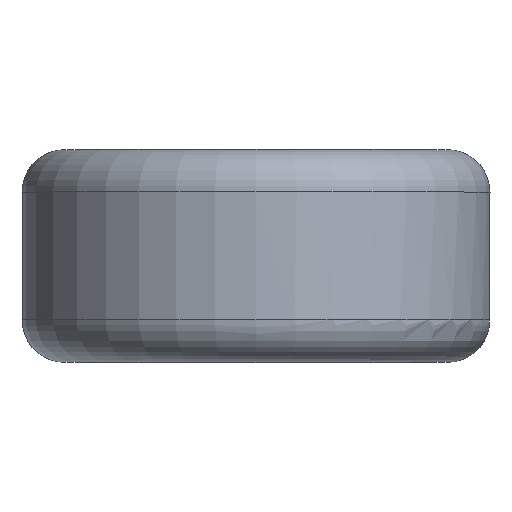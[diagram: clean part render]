
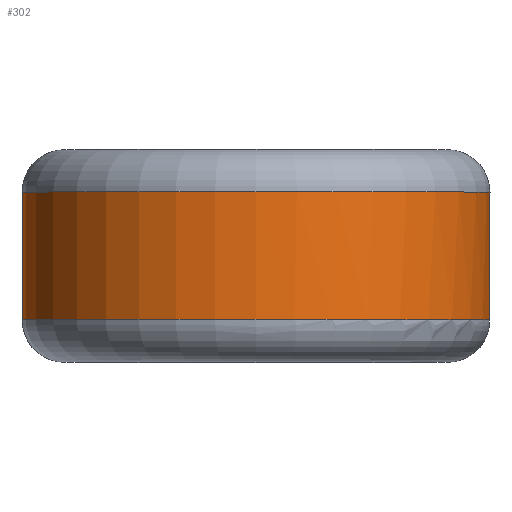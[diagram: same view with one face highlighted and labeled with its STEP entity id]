
A CAD part, top view. The second image highlights one B-rep face of the part: STEP entity #302.
In plain terms, the highlighted cylindrical face has radius 5.5 mm (diameter 11 mm), a full revolution.
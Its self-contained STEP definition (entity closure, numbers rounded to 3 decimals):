
#24=B_SPLINE_CURVE_WITH_KNOTS('',3,(#989,#990,#991,#992,#993,#994,#995,
#996,#997,#998),.UNSPECIFIED.,.F.,.F.,(4,1,1,1,1,1,1,4),(-0.211,
-0.181,-0.151,-0.121,-0.09,
-0.06,-0.03,0.),.UNSPECIFIED.);
#26=B_SPLINE_CURVE_WITH_KNOTS('',3,(#1074,#1075,#1076,#1077,#1078,#1079,
#1080,#1081,#1082,#1083),.UNSPECIFIED.,.F.,.F.,(4,1,1,1,1,1,1,4),(-0.211,
-0.181,-0.151,-0.121,-0.09,
-0.06,-0.03,0.),.UNSPECIFIED.);
#72=FACE_OUTER_BOUND('',#92,.T.);
#92=EDGE_LOOP('',(#241,#242,#243,#244,#245,#246,#247,#248,#249,#250));
#105=LINE('',#1068,#108);
#108=VECTOR('',#407,5.5);
#120=CIRCLE('',#347,5.5);
#121=CIRCLE('',#348,5.5);
#122=CIRCLE('',#349,5.5);
#123=CIRCLE('',#351,5.5);
#124=CIRCLE('',#352,5.5);
#125=CIRCLE('',#353,5.5);
#143=VERTEX_POINT('',#985);
#144=VERTEX_POINT('',#987);
#147=VERTEX_POINT('',#1060);
#148=VERTEX_POINT('',#1063);
#149=VERTEX_POINT('',#1067);
#150=VERTEX_POINT('',#1069);
#151=VERTEX_POINT('',#1071);
#152=VERTEX_POINT('',#1073);
#176=EDGE_CURVE('',#143,#144,#24,.T.);
#181=EDGE_CURVE('',#144,#147,#120,.T.);
#182=EDGE_CURVE('',#148,#143,#121,.T.);
#183=EDGE_CURVE('',#147,#148,#122,.T.);
#184=EDGE_CURVE('',#148,#149,#105,.T.);
#185=EDGE_CURVE('',#149,#150,#123,.T.);
#186=EDGE_CURVE('',#150,#151,#124,.T.);
#187=EDGE_CURVE('',#151,#152,#26,.T.);
#188=EDGE_CURVE('',#152,#149,#125,.T.);
#241=ORIENTED_EDGE('',*,*,#176,.T.);
#242=ORIENTED_EDGE('',*,*,#181,.T.);
#243=ORIENTED_EDGE('',*,*,#183,.T.);
#244=ORIENTED_EDGE('',*,*,#184,.T.);
#245=ORIENTED_EDGE('',*,*,#185,.T.);
#246=ORIENTED_EDGE('',*,*,#186,.T.);
#247=ORIENTED_EDGE('',*,*,#187,.T.);
#248=ORIENTED_EDGE('',*,*,#188,.T.);
#249=ORIENTED_EDGE('',*,*,#184,.F.);
#250=ORIENTED_EDGE('',*,*,#182,.T.);
#292=CYLINDRICAL_SURFACE('',#350,5.5);
#302=ADVANCED_FACE('',(#72),#292,.T.);
#347=AXIS2_PLACEMENT_3D('',#1062,#399,#400);
#348=AXIS2_PLACEMENT_3D('',#1064,#401,#402);
#349=AXIS2_PLACEMENT_3D('',#1065,#403,#404);
#350=AXIS2_PLACEMENT_3D('',#1066,#405,#406);
#351=AXIS2_PLACEMENT_3D('',#1070,#408,#409);
#352=AXIS2_PLACEMENT_3D('',#1072,#410,#411);
#353=AXIS2_PLACEMENT_3D('',#1084,#412,#413);
#399=DIRECTION('center_axis',(0.,-1.,0.));
#400=DIRECTION('ref_axis',(-1.,0.,0.));
#401=DIRECTION('center_axis',(0.,-1.,0.));
#402=DIRECTION('ref_axis',(-1.,0.,0.));
#403=DIRECTION('center_axis',(0.,-1.,0.));
#404=DIRECTION('ref_axis',(-1.,0.,0.));
#405=DIRECTION('center_axis',(0.,-1.,0.));
#406=DIRECTION('ref_axis',(1.,0.,0.));
#407=DIRECTION('',(0.,-1.,0.));
#408=DIRECTION('center_axis',(0.,1.,0.));
#409=DIRECTION('ref_axis',(-1.,0.,0.));
#410=DIRECTION('center_axis',(0.,1.,0.));
#411=DIRECTION('ref_axis',(-1.,0.,0.));
#412=DIRECTION('center_axis',(0.,1.,0.));
#413=DIRECTION('ref_axis',(-1.,0.,0.));
#985=CARTESIAN_POINT('',(-3.363,1.5,-4.352));
#987=CARTESIAN_POINT('',(-2.477,1.5,-4.91));
#989=CARTESIAN_POINT('Ctrl Pts',(-3.363,1.5,-4.352));
#990=CARTESIAN_POINT('Ctrl Pts',(-3.388,1.405,-4.333));
#991=CARTESIAN_POINT('Ctrl Pts',(-3.396,1.196,-4.326));
#992=CARTESIAN_POINT('Ctrl Pts',(-3.28,0.921,-4.417));
#993=CARTESIAN_POINT('Ctrl Pts',(-3.064,0.764,-4.571));
#994=CARTESIAN_POINT('Ctrl Pts',(-2.805,0.765,-4.734));
#995=CARTESIAN_POINT('Ctrl Pts',(-2.573,0.923,-4.863));
#996=CARTESIAN_POINT('Ctrl Pts',(-2.439,1.196,-4.929));
#997=CARTESIAN_POINT('Ctrl Pts',(-2.449,1.405,-4.925));
#998=CARTESIAN_POINT('Ctrl Pts',(-2.477,1.5,-4.91));
#1060=CARTESIAN_POINT('',(0.,1.5,-5.5));
#1062=CARTESIAN_POINT('Origin',(0.,1.5,0.));
#1063=CARTESIAN_POINT('',(-5.5,1.5,0.));
#1064=CARTESIAN_POINT('Origin',(0.,1.5,0.));
#1065=CARTESIAN_POINT('Origin',(0.,1.5,0.));
#1066=CARTESIAN_POINT('Origin',(0.,0.,0.));
#1067=CARTESIAN_POINT('',(-5.5,-1.5,0.));
#1068=CARTESIAN_POINT('',(-5.5,0.,0.));
#1069=CARTESIAN_POINT('',(0.,-1.5,5.5));
#1070=CARTESIAN_POINT('Origin',(0.,-1.5,0.));
#1071=CARTESIAN_POINT('',(3.363,-1.5,-4.352));
#1072=CARTESIAN_POINT('Origin',(0.,-1.5,0.));
#1073=CARTESIAN_POINT('',(2.477,-1.5,-4.91));
#1074=CARTESIAN_POINT('Ctrl Pts',(3.363,-1.5,-4.352));
#1075=CARTESIAN_POINT('Ctrl Pts',(3.388,-1.405,-4.333));
#1076=CARTESIAN_POINT('Ctrl Pts',(3.396,-1.196,-4.326));
#1077=CARTESIAN_POINT('Ctrl Pts',(3.28,-0.921,-4.417));
#1078=CARTESIAN_POINT('Ctrl Pts',(3.064,-0.764,-4.571));
#1079=CARTESIAN_POINT('Ctrl Pts',(2.805,-0.765,-4.734));
#1080=CARTESIAN_POINT('Ctrl Pts',(2.573,-0.923,-4.863));
#1081=CARTESIAN_POINT('Ctrl Pts',(2.439,-1.196,-4.929));
#1082=CARTESIAN_POINT('Ctrl Pts',(2.449,-1.405,-4.925));
#1083=CARTESIAN_POINT('Ctrl Pts',(2.477,-1.5,-4.91));
#1084=CARTESIAN_POINT('Origin',(0.,-1.5,0.));
